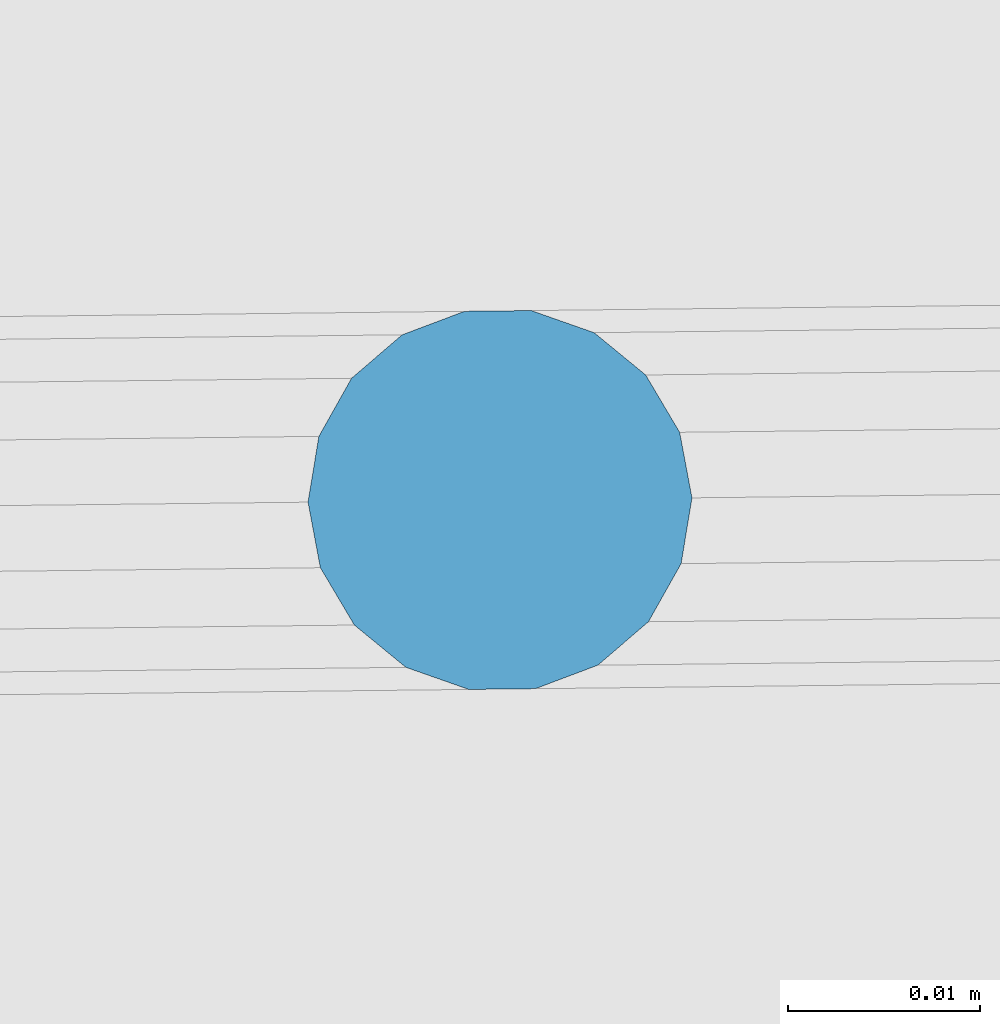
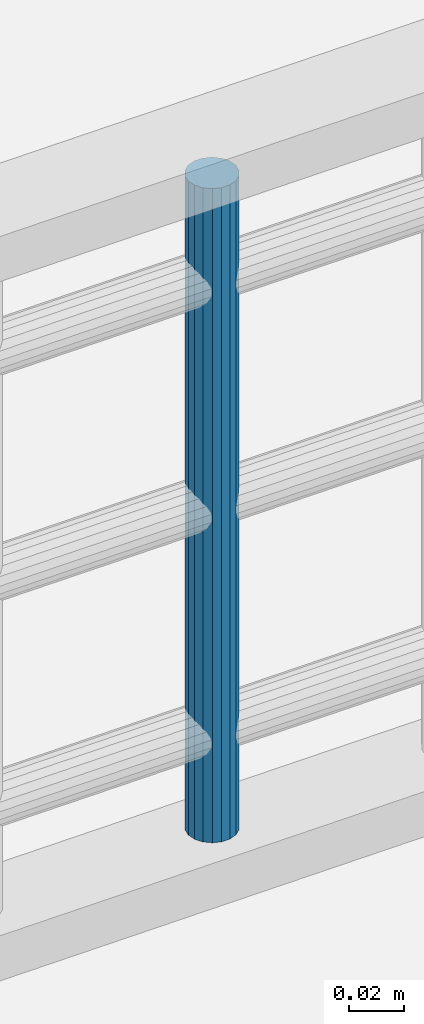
# One storey, part 32 of 97: 1 member, 1 element without a shape of its own.
"""IFC2X3 building model written with IfcOpenShell, lengths in centimetres."""

from ifc_helpers import new_model, entity, si_unit, converted_unit, direction, frame, origin, origin_with_axes, place, context, subcontext, project, spatial, faceted_brep, material, type_object, element, aggregate, save


model = new_model("IFC2X3")

# Units and contexts
model_context = context("Model", 3, precision=0.0001, world=origin(), true_north=direction((0.225632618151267, 0.974212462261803, 0.0)))
body_context = subcontext(model_context, "Body", "Model", "MODEL_VIEW")
ifc_project = project(units=[si_unit("LENGTHUNIT", "METRE", prefix="CENTI"), si_unit("AREAUNIT", "SQUARE_METRE", prefix="CENTI"), si_unit("VOLUMEUNIT", "CUBIC_METRE", prefix="CENTI"), converted_unit("PLANEANGLEUNIT", "DEGREE", entity("IfcRatioMeasure", 0.0174532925), si_unit("PLANEANGLEUNIT", "RADIAN"), dimensions=[0, 0, 0, 0, 0, 0, 0])], contexts=[model_context])

# Site, building, storey
site_placement = place(None, origin_with_axes())
site = spatial("IfcSite", under=ifc_project, at=site_placement, Name="Default Site", CompositionType="ELEMENT")
building_placement = place(site_placement, origin_with_axes())
building = spatial("IfcBuilding", under=site, at=building_placement, Name="Default Building", CompositionType="ELEMENT")
storey_placement = place(building_placement, origin_with_axes())
storey = spatial("IfcBuildingStorey", under=building, at=storey_placement, Name="Rez-de-chaussée", CompositionType="ELEMENT", Elevation=0.0)

# Assembly, member
building_element_proxy_type = type_object("IfcBuildingElementProxyType", Name="Type Object", PredefinedType="NOTDEFINED")
assembly_placement = place(storey_placement, frame((1081.21588561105, -852.417794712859, 9.99999999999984), z_axis=(0.0, 0.0, 1.0), x_axis=(-0.999937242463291, -0.0112031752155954, 0.0)))
assembly = element("IfcElementAssembly", 1, at=assembly_placement, inside=storey, type_object=building_element_proxy_type, Name="Panneau 1702014", ObjectType="Precast panel", PredefinedType="USERDEFINED")
ifc_material = material(Name="Aluminium satiné")
member_placement = place(assembly_placement, frame((97.4396944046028, 0.342020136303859, 31.0000002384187), z_axis=(0.0, 0.0, 1.0), x_axis=(0.500008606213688, -0.866020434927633, 0.0)))
member = element("IfcMember", 2, at=member_placement, material=ifc_material, Name="4294967140", context=body_context, shape_type="Brep", body=[
    faceted_brep([(-5.82867087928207e-13, -2.22044604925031e-13, 5.55111512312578e-15), (-0.347298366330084, -1.22124532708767e-13, 5.55111512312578e-15), (-0.673648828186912, -0.118774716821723, 5.55111512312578e-15), (-0.939696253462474, -0.342011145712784, 5.55111512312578e-15), (-1.11334843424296, -0.642778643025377, 5.55111512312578e-15), (-1.17365993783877, -0.984799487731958, 5.55111512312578e-15), (-1.11335342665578, -1.32681583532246, 5.55111512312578e-15), (-0.939710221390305, -1.62758849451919, 5.55111512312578e-15), (-0.673668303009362, -1.85082944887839, 5.55111512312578e-15), (-0.347317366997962, -1.96961451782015, 5.55111512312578e-15), (-1.90006684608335e-05, -1.96961451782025, 5.55111512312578e-15), (0.326331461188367, -1.85083980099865, 5.55111512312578e-15), (0.592378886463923, -1.62760337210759, 5.55111512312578e-15), (0.76603106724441, -1.326835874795, 5.55111512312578e-15), (0.826342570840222, -0.984815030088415, 5.55111512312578e-15), (0.766036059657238, -0.642798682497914, 5.55111512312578e-15), (0.59239285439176, -0.342026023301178, 5.55111512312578e-15), (0.326350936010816, -0.118785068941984, 5.55111512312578e-15), (0.326350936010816, -0.118785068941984, -29.000000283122), (0.59239285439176, -0.342026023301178, -29.000000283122), (0.766036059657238, -0.642798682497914, -29.000000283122), (0.826342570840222, -0.984815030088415, -29.000000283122), (0.76603106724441, -1.326835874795, -29.000000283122), (0.592378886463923, -1.62760337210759, -29.000000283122), (0.326331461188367, -1.85083980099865, -29.000000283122), (-1.90006684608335e-05, -1.96961451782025, -29.000000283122), (-0.347317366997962, -1.96961451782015, -29.000000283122), (-0.673668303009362, -1.85082944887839, -29.000000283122), (-0.939710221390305, -1.62758849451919, -29.000000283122), (-1.11335342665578, -1.32681583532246, -29.000000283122), (-1.17365993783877, -0.984799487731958, -29.000000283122), (-1.11334843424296, -0.642778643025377, -29.000000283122), (-0.939696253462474, -0.342011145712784, -29.000000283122), (-0.673648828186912, -0.118774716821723, -29.000000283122), (-0.347298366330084, -1.22124532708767e-13, -29.000000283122), (-5.82867087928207e-13, -2.22044604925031e-13, -29.000000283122), (0.592393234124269, -0.342025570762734, 5.55111512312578e-15), (0.592393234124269, -0.342025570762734, -29.000000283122), (0.766039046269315, -0.642796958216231, 5.55111512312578e-15), (0.766039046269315, -0.642796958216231, -29.000000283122), (0.826339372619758, -0.984815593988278, 5.55111512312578e-15), (0.826339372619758, -0.984815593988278, -29.000000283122), (0.766031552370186, -1.32683596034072, 5.55111512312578e-15), (0.766031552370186, -1.32683596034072, -29.000000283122), (0.592378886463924, -1.62760337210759, 5.55111512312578e-15), (0.592378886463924, -1.62760337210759, -29.000000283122), (0.326331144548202, -1.85083942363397, 5.55111512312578e-15), (0.326331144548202, -1.85083942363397, -29.000000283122), (-1.7889970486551e-05, -1.96961756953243, 5.55111512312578e-15), (-1.7889970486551e-05, -1.96961756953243, -29.000000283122), (-0.347317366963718, -1.96961106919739, 5.55111512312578e-15), (-0.347317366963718, -1.96961106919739, -29.000000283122), (-0.673668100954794, -1.85082889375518, 5.55111512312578e-15), (-0.673668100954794, -1.85082889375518, -29.000000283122), (-0.939710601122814, -1.62758894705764, 5.55111512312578e-15), (-0.939710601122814, -1.62758894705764, -29.000000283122), (-1.11335641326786, -1.32681755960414, 5.55111512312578e-15), (-1.11335641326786, -1.32681755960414, -29.000000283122), (-1.1736567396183, -0.984798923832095, 5.55111512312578e-15), (-1.1736567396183, -0.984798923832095, -29.000000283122), (-1.11334891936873, -0.642778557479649, 5.55111512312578e-15), (-1.11334891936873, -0.642778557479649, -29.000000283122), (-0.939696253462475, -0.342011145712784, 5.55111512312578e-15), (-0.939696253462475, -0.342011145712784, -29.000000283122), (-0.67364851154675, -0.1187750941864, 5.55111512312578e-15), (-0.67364851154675, -0.1187750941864, -29.000000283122), (-0.347299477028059, 3.05171206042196e-06, 5.55111512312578e-15), (-0.347299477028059, 3.05171206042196e-06, -29.000000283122), (-3.48271954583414e-11, -3.44862298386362e-06, 5.55111512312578e-15), (-3.48271954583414e-11, -3.44862298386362e-06, -29.000000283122), (0.326350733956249, -0.118785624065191, 5.55111512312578e-15), (0.326350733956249, -0.118785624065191, -29.000000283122)], [[[0, 1, 2, 3, 4, 5, 6, 7, 8, 9, 10, 11, 12, 13, 14, 15, 16, 17]], [[18, 19, 20, 21, 22, 23, 24, 25, 26, 27, 28, 29, 30, 31, 32, 33, 34, 35]], [[17, 36, 37, 18]], [[16, 38, 39, 19]], [[15, 40, 41, 20]], [[14, 42, 43, 21]], [[13, 44, 45, 22]], [[12, 46, 47, 23]], [[11, 48, 49, 24]], [[10, 50, 51, 25]], [[9, 52, 53, 26]], [[8, 54, 55, 27]], [[7, 56, 57, 28]], [[6, 58, 59, 29]], [[5, 60, 61, 30]], [[4, 62, 63, 31]], [[3, 64, 65, 32]], [[2, 66, 67, 33]], [[1, 68, 69, 34]], [[0, 70, 71, 35]]]),
])
aggregate(assembly, [member])

save(model, "model.ifc")
